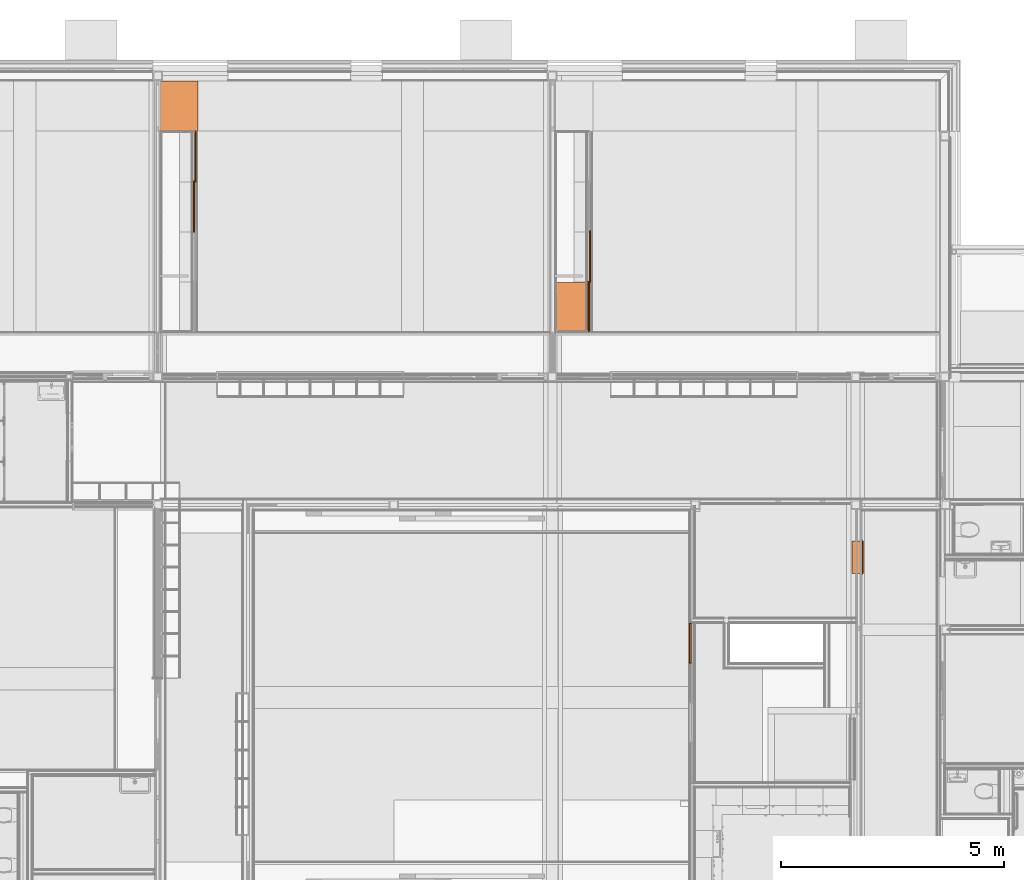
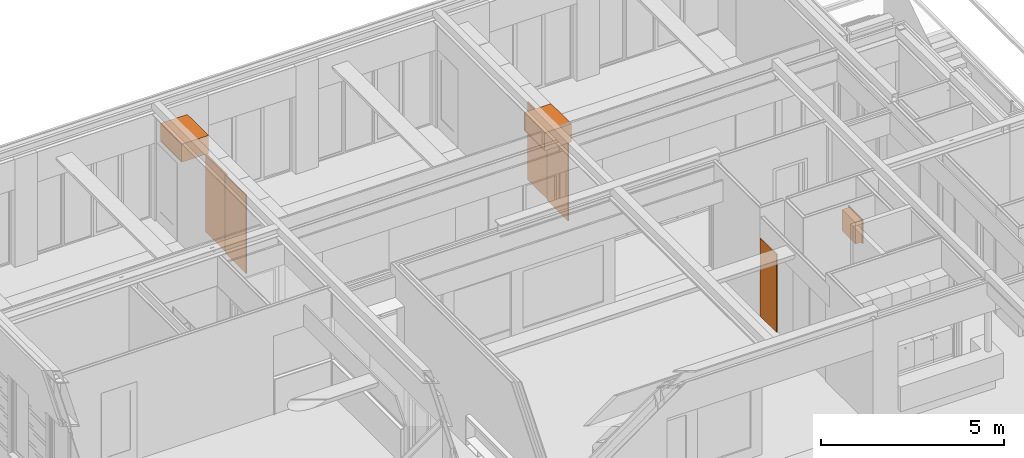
# One storey, part 136 of 165: 8 proxies.
"""IFC2X3 building model written with IfcOpenShell, lengths in millimetres."""

from ifc_helpers import new_model, entity, si_unit, converted_unit, derived_unit, money_unit, direction, frame, origin_with_axes, place, context, subcontext, project, spatial, faceted_brep, source, transform, mapped, type_object, type_shapes, element, save


model = new_model("IFC2X3")

# Units and contexts
model_context = context("Model", 3, precision=0.01, world=origin_with_axes(), true_north=direction((0.0, 1.0)))
body_context = subcontext(model_context, "Body", "Model", "MODEL_VIEW")
ifc_project = project(units=[si_unit("LENGTHUNIT", "METRE", prefix="MILLI"), si_unit("AREAUNIT", "SQUARE_METRE"), si_unit("VOLUMEUNIT", "CUBIC_METRE"), converted_unit("PLANEANGLEUNIT", "DEGREE", entity("IfcPlaneAngleMeasure", 0.0174532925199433), si_unit("PLANEANGLEUNIT", "RADIAN"), dimensions=[0, 0, 0, 0, 0, 0, 0]), money_unit("EUR"), converted_unit("TIMEUNIT", "Year", entity("IfcTimeMeasure", 31556926.0), si_unit("TIMEUNIT", "SECOND"), dimensions=[0, 0, 1, 0, 0, 0, 0]), si_unit("MASSUNIT", "GRAM", prefix="KILO"), si_unit("THERMODYNAMICTEMPERATUREUNIT", "DEGREE_CELSIUS"), si_unit("LUMINOUSINTENSITYUNIT", "LUMEN"), si_unit("ENERGYUNIT", "JOULE", prefix="MEGA"), derived_unit("THERMALCONDUCTANCEUNIT", [(si_unit("POWERUNIT", "WATT"), 1), (si_unit("LENGTHUNIT", "METRE"), -1), (si_unit("THERMODYNAMICTEMPERATUREUNIT", "KELVIN"), -1)]), derived_unit("SPECIFICHEATCAPACITYUNIT", [(si_unit("ENERGYUNIT", "JOULE"), 1), (si_unit("MASSUNIT", "GRAM", prefix="KILO"), -1), (si_unit("THERMODYNAMICTEMPERATUREUNIT", "KELVIN"), -1)]), derived_unit("MASSDENSITYUNIT", [(si_unit("MASSUNIT", "GRAM", prefix="KILO"), 1), (si_unit("VOLUMEUNIT", "CUBIC_METRE"), -1)])], contexts=[model_context])

# Site, building, storey
site_placement = place(None, origin_with_axes())
site = spatial("IfcSite", under=ifc_project, at=site_placement, Name="Site", CompositionType="ELEMENT")
building_placement = place(site_placement, origin_with_axes())
building = spatial("IfcBuilding", under=site, at=building_placement, Name="Naam gebouw", CompositionType="ELEMENT")
storey_placement = place(building_placement, origin_with_axes())
storey = spatial("IfcBuildingStorey", under=building, at=storey_placement, Name="Begane grond", CompositionType="ELEMENT", Elevation=0.0)

# Proxies
building_element_proxy_type_1 = type_object("IfcBuildingElementProxyType", Name="gevelbekleding", PredefinedType="NOTDEFINED")
shared_shape_1 = source(origin_with_axes(), body_context, "Body", "Brep", [
    faceted_brep([(-445.0, 0.0, 0.0), (-440.0, 0.0, 0.0), (-440.0, -35.0, 0.0), (-445.0, -35.0, 0.0), (-445.0, 0.0, 2600.0), (-440.0, 0.0, 2600.0), (-440.0, -35.0, 2600.0), (-445.0, -35.0, 2600.0)], [[[0, 1, 2, 3]], [[0, 4, 5, 1]], [[1, 5, 6, 2]], [[3, 2, 6, 7]], [[4, 0, 3, 7]], [[5, 4, 7, 6]]]),
    faceted_brep([(445.0, 0.0, 0.0), (445.0, 0.0, 2600.0), (445.0, -35.0, 2600.0), (445.0, -35.0, 0.0), (440.0, 0.0, 0.0), (440.0, 0.0, 2600.0), (440.0, -35.0, 2600.0), (440.0, -35.0, 0.0)], [[[0, 1, 2, 3]], [[0, 4, 5, 1]], [[1, 5, 6, 2]], [[3, 2, 6, 7]], [[4, 0, 3, 7]], [[5, 4, 7, 6]]]),
    faceted_brep([(-445.0, 0.0, 0.0), (445.0, 0.0, 0.0), (445.0, -35.0, 0.0), (-445.0, -35.0, 0.0), (-445.0, 0.0, 2600.0), (445.0, 0.0, 2600.0), (445.0, -35.0, 2600.0), (-445.0, -35.0, 2600.0)], [[[0, 1, 2, 3]], [[0, 4, 5, 1]], [[1, 5, 6, 2]], [[3, 2, 6, 7]], [[4, 0, 3, 7]], [[5, 4, 7, 6]]]),
])
proxy_1_placement = place(storey_placement, frame((20774.99906281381, 15899.99824205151, 0.0), z_axis=(0.0, 0.0, 1.0), x_axis=(0.0, 1.0, 0.0)))
element("IfcBuildingElementProxy", 1, at=proxy_1_placement, inside=storey, type_object=building_element_proxy_type_1, Name="_-", context=body_context, shape_type="MappedRepresentation", body=[
    mapped(shared_shape_1, transform((445.0000000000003, 0.0, 0.0))),
])
building_element_proxy_type_2 = type_object("IfcBuildingElementProxyType", Name="Onderkast recht 26", PredefinedType="NOTDEFINED")
shared_shape_2 = source(origin_with_axes(), body_context, "Body", "Brep", [
    faceted_brep([(-1.0, -826.9999999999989, 1.0), (-1.0, -844.9999999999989, 1.000000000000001), (-1152.000152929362, -844.9999999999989, 1.000000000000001), (-1152.000152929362, -826.9999999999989, 1.0), (-1.0, -826.9999999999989, 599.0), (-1.0, -844.9999999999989, 599.0), (-1152.000152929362, -844.9999999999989, 599.0), (-1152.000152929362, -826.9999999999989, 599.0)], [[[0, 1, 2, 3]], [[4, 5, 1, 0]], [[1, 5, 6, 2]], [[3, 2, 6, 7]], [[0, 3, 7, 4]], [[7, 6, 5, 4]]]),
    faceted_brep([(-18.0, -826.9999999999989, 0.0), (-18.0, -826.9999999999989, 18.0), (-1135.000152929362, -826.9999999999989, 18.0), (-1135.000152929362, -826.9999999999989, 0.0), (-18.0, 0.0, 0.0), (-18.0, 0.0, 18.0), (-1135.000152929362, 0.0, 18.0), (-1135.000152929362, 0.0, 0.0)], [[[0, 1, 2, 3]], [[4, 5, 1, 0]], [[1, 5, 6, 2]], [[3, 2, 6, 7]], [[0, 3, 7, 4]], [[7, 6, 5, 4]]]),
    faceted_brep([(-18.0, -826.9999999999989, 582.0), (-18.0, -826.9999999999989, 600.0), (-1135.000152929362, -826.9999999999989, 600.0), (-1135.000152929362, -826.9999999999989, 582.0), (-18.0, 0.0, 582.0), (-18.0, 0.0, 600.0), (-1135.000152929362, 0.0, 600.0), (-1135.000152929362, 0.0, 582.0)], [[[0, 1, 2, 3]], [[4, 5, 1, 0]], [[1, 5, 6, 2]], [[3, 2, 6, 7]], [[0, 3, 7, 4]], [[7, 6, 5, 4]]]),
    faceted_brep([(0.0, 0.0, 0.0), (0.0, 0.0, 600.0), (0.0, -826.9999999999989, 600.0), (0.0, -826.9999999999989, 0.0), (-18.0, 0.0, 0.0), (-18.0, 0.0, 600.0), (-18.0, -826.9999999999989, 600.0), (-18.0, -826.9999999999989, 0.0)], [[[0, 1, 2, 3]], [[4, 5, 1, 0]], [[1, 5, 6, 2]], [[3, 2, 6, 7]], [[0, 3, 7, 4]], [[7, 6, 5, 4]]]),
    faceted_brep([(-1153.000152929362, -826.9999999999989, 0.0), (-1153.000152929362, -826.9999999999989, 600.0), (-1153.000152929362, 0.0, 600.0), (-1153.000152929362, 0.0, 0.0), (-1135.000152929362, -826.9999999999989, 0.0), (-1135.000152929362, -826.9999999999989, 600.0), (-1135.000152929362, 0.0, 600.0), (-1135.000152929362, 0.0, 0.0)], [[[0, 1, 2, 3]], [[4, 5, 1, 0]], [[1, 5, 6, 2]], [[3, 2, 6, 7]], [[0, 3, 7, 4]], [[7, 6, 5, 4]]]),
    faceted_brep([(-1135.000152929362, -9.0, 18.0), (-1135.000152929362, -9.0, 582.0), (-18.00000000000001, -9.0, 582.0), (-18.00000000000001, -9.0, 18.0), (-1135.000152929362, -18.0, 18.0), (-1135.000152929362, -18.0, 582.0), (-18.00000000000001, -18.0, 582.0), (-18.00000000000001, -18.0, 18.0)], [[[0, 1, 2, 3]], [[4, 5, 1, 0]], [[1, 5, 6, 2]], [[3, 2, 6, 7]], [[0, 3, 7, 4]], [[7, 6, 5, 4]]]),
])
proxy_2_placement = place(storey_placement, frame((8912.500000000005, 28961.0, 2600.0), z_axis=(0.0, 0.0, 1.0), x_axis=(0.0, 1.0, 0.0)))
element("IfcBuildingElementProxy", 2, at=proxy_2_placement, inside=storey, type_object=building_element_proxy_type_2, Name="_Leeg", context=body_context, shape_type="MappedRepresentation", body=[
    mapped(shared_shape_2, transform((0.0, 0.0, 0.0))),
])
building_element_proxy_type_3 = type_object("IfcBuildingElementProxyType", Name="Brandslang haspelkast 26", PredefinedType="NOTDEFINED")
shared_shape_3 = source(origin_with_axes(), body_context, "Body", "Brep", [
    faceted_brep([(0.0, 40.00000000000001, 0.0), (0.0, 20.00000000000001, 0.0), (-800.0, 20.00000000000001, 0.0), (-800.0, 40.00000000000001, 0.0), (0.0, 40.00000000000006, 800.0), (0.0, 20.00000000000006, 800.0), (-800.0, 20.00000000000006, 800.0), (-60.0, 20.00000000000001, 60.00000000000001), (-740.0, 20.00000000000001, 60.00000000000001), (-740.0, 20.00000000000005, 740.0), (-60.0, 20.00000000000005, 740.0), (-800.0, 40.00000000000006, 800.0), (-60.0, 40.00000000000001, 60.00000000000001), (-60.0, 40.00000000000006, 740.0), (-740.0, 40.00000000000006, 740.0), (-740.0, 40.00000000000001, 60.00000000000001)], [[[0, 1, 2, 3]], [[4, 5, 1, 0]], [[1, 5, 6, 2], [7, 8, 9, 10]], [[3, 2, 6, 11]], [[0, 3, 11, 4], [12, 13, 14, 15]], [[11, 6, 5, 4]], [[15, 8, 7, 12]], [[14, 9, 8, 15]], [[13, 10, 9, 14]], [[12, 7, 10, 13]]]),
    faceted_brep([(-39.99999999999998, 20.00000000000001, 40.00000000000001), (-39.99999999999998, 0.0, 40.00000000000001), (-760.0, 0.0, 40.00000000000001), (-760.0, 20.00000000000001, 40.00000000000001), (-39.99999999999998, 20.00000000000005, 760.0), (-39.99999999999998, 0.0, 760.0), (-760.0, 0.0, 760.0), (-80.00000000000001, 0.0, 80.0), (-720.0, 0.0, 80.0), (-720.0, 0.0, 720.0000000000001), (-80.00000000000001, 0.0, 720.0000000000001), (-760.0, 20.00000000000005, 760.0), (-80.00000000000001, 20.00000000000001, 80.0), (-80.00000000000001, 20.00000000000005, 720.0000000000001), (-720.0, 20.00000000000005, 720.0000000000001), (-720.0, 20.00000000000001, 80.0)], [[[0, 1, 2, 3]], [[4, 5, 1, 0]], [[1, 5, 6, 2], [7, 8, 9, 10]], [[3, 2, 6, 11]], [[0, 3, 11, 4], [12, 13, 14, 15]], [[11, 6, 5, 4]], [[15, 8, 7, 12]], [[14, 9, 8, 15]], [[13, 10, 9, 14]], [[12, 7, 10, 13]]]),
    faceted_brep([(-39.99999999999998, 230.0, 39.99999999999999), (-39.99999999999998, 39.99999999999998, 40.00000000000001), (-760.0, 39.99999999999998, 40.00000000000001), (-760.0, 230.0, 39.99999999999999), (-39.99999999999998, 230.0, 760.0), (-39.99999999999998, 40.00000000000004, 760.0), (-760.0, 40.00000000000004, 760.0), (-60.0, 39.99999999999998, 60.00000000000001), (-740.0, 39.99999999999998, 60.00000000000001), (-740.0, 40.00000000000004, 740.0), (-60.0, 40.00000000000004, 740.0), (-760.0, 230.0, 760.0), (-60.0, 230.0, 59.99999999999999), (-60.0, 230.0, 740.0), (-740.0, 230.0, 740.0), (-740.0, 230.0, 59.99999999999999)], [[[0, 1, 2, 3]], [[4, 5, 1, 0]], [[1, 5, 6, 2], [7, 8, 9, 10]], [[3, 2, 6, 11]], [[0, 3, 11, 4], [12, 13, 14, 15]], [[11, 6, 5, 4]], [[15, 8, 7, 12]], [[14, 9, 8, 15]], [[13, 10, 9, 14]], [[12, 7, 10, 13]]]),
    faceted_brep([(-39.99999999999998, 250.0, 39.99999999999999), (-39.99999999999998, 230.0, 39.99999999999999), (-760.0, 230.0, 39.99999999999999), (-760.0, 250.0, 39.99999999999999), (-39.99999999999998, 250.0000000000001, 760.0), (-39.99999999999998, 230.0, 760.0), (-760.0, 230.0, 760.0), (-760.0, 250.0000000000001, 760.0)], [[[0, 1, 2, 3]], [[4, 5, 1, 0]], [[1, 5, 6, 2]], [[3, 2, 6, 7]], [[0, 3, 7, 4]], [[7, 6, 5, 4]]]),
    faceted_brep([(-80.00000000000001, 15.00000000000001, 80.0), (-80.00000000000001, 5.000000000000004, 80.0), (-720.0, 5.000000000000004, 80.0), (-720.0, 15.00000000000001, 80.0), (-80.00000000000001, 15.00000000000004, 720.0000000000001), (-80.00000000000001, 5.000000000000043, 720.0000000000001), (-720.0, 5.000000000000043, 720.0000000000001), (-720.0, 15.00000000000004, 720.0000000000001)], [[[0, 1, 2, 3]], [[4, 5, 1, 0]], [[1, 5, 6, 2]], [[3, 2, 6, 7]], [[0, 3, 7, 4]], [[7, 6, 5, 4]]]),
    faceted_brep([(-749.6592582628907, 0.0, 397.4118095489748), (-750.0, 0.0, 400.0), (-749.6592582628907, 0.0, 402.5881904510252), (-748.6602540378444, 0.0, 405.0), (-747.0710678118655, 0.0, 407.0710678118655), (-745.0, 0.0, 408.6602540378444), (-742.5881904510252, 0.0, 409.6592582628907), (-740.0, 0.0, 410.0000000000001), (-737.4118095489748, 0.0, 409.6592582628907), (-735.0, 0.0, 408.6602540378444), (-732.9289321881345, 0.0, 407.0710678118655), (-731.3397459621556, 0.0, 405.0), (-730.3407417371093, 0.0, 402.5881904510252), (-730.0, 0.0, 400.0), (-730.3407417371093, 0.0, 397.4118095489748), (-731.3397459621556, 0.0, 395.0), (-732.9289321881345, 0.0, 392.9289321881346), (-735.0, 0.0, 391.3397459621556), (-737.4118095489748, 0.0, 390.3407417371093), (-740.0, 0.0, 390.0), (-742.5881904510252, 0.0, 390.3407417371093), (-745.0, 0.0, 391.3397459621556), (-747.0710678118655, 0.0, 392.9289321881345), (-748.6602540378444, 0.0, 395.0), (-749.6592582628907, -1.999999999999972, 397.4118095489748), (-750.0, -1.999999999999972, 400.0), (-749.6592582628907, -1.999999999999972, 402.5881904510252), (-748.6602540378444, -1.999999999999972, 405.0), (-747.0710678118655, -1.999999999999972, 407.0710678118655), (-745.0, -1.999999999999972, 408.6602540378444), (-742.5881904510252, -1.999999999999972, 409.6592582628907), (-740.0, -1.999999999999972, 410.0000000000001), (-737.4118095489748, -1.999999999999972, 409.6592582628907), (-735.0, -1.999999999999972, 408.6602540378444), (-732.9289321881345, -1.999999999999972, 407.0710678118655), (-731.3397459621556, -1.999999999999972, 405.0), (-730.3407417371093, -1.999999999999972, 402.5881904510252), (-730.0, -1.999999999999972, 400.0), (-730.3407417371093, -1.999999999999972, 397.4118095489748), (-731.3397459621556, -1.999999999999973, 395.0), (-732.9289321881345, -1.999999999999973, 392.9289321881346), (-735.0, -1.999999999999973, 391.3397459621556), (-737.4118095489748, -1.999999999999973, 390.3407417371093), (-740.0, -1.999999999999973, 390.0), (-742.5881904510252, -1.999999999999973, 390.3407417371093), (-745.0, -1.999999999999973, 391.3397459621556), (-747.0710678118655, -1.999999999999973, 392.9289321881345), (-748.6602540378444, -1.999999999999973, 395.0)], [[[0, 1, 2, 3, 4, 5, 6, 7, 8, 9, 10, 11, 12, 13, 14, 15, 16, 17, 18, 19, 20, 21, 22, 23]], [[0, 24, 25, 1]], [[1, 25, 26, 2]], [[2, 26, 27, 3]], [[3, 27, 28, 4]], [[4, 28, 29, 5]], [[5, 29, 30, 6]], [[6, 30, 31, 7]], [[7, 31, 32, 8]], [[8, 32, 33, 9]], [[9, 33, 34, 10]], [[10, 34, 35, 11]], [[11, 35, 36, 12]], [[12, 36, 37, 13]], [[13, 37, 38, 14]], [[14, 38, 39, 15]], [[15, 39, 40, 16]], [[16, 40, 41, 17]], [[17, 41, 42, 18]], [[18, 42, 43, 19]], [[19, 43, 44, 20]], [[20, 44, 45, 21]], [[21, 45, 46, 22]], [[22, 46, 47, 23]], [[23, 47, 24, 0]], [[24, 47, 46, 45, 44, 43, 42, 41, 40, 39, 38, 37, 36, 35, 34, 33, 32, 31, 30, 29, 28, 27, 26, 25]]]),
    faceted_brep([(-39.89777747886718, 16.22354286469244, 80.0), (-39.99999999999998, 17.0, 80.0), (-39.89777747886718, 17.77645713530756, 80.0), (-39.59807621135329, 18.5, 80.0), (-39.12132034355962, 19.12132034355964, 80.0), (-38.49999999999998, 19.59807621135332, 80.0), (-37.77645713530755, 19.89777747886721, 80.0), (-36.99999999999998, 20.0, 80.0), (-36.22354286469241, 19.89777747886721, 80.0), (-35.49999999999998, 19.59807621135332, 80.0), (-34.87867965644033, 19.12132034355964, 80.0), (-34.40192378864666, 18.5, 80.0), (-34.10222252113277, 17.77645713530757, 80.0), (-33.99999999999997, 17.0, 80.0), (-34.10222252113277, 16.22354286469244, 80.0), (-34.40192378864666, 15.5, 80.0), (-34.87867965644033, 14.87867965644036, 80.0), (-35.49999999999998, 14.40192378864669, 80.0), (-36.22354286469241, 14.1022225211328, 80.0), (-36.99999999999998, 14.0, 80.0), (-37.77645713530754, 14.10222252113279, 80.0), (-38.49999999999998, 14.40192378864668, 80.0), (-39.12132034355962, 14.87867965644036, 80.0), (-39.59807621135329, 15.5, 80.0), (-39.89777747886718, 16.22354286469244, 120.0), (-39.99999999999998, 17.0, 120.0), (-39.89777747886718, 17.77645713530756, 120.0), (-39.59807621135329, 18.5, 120.0), (-39.12132034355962, 19.12132034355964, 120.0), (-38.49999999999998, 19.59807621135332, 120.0), (-37.77645713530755, 19.89777747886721, 120.0), (-36.99999999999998, 20.0, 120.0), (-36.22354286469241, 19.89777747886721, 120.0), (-35.49999999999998, 19.59807621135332, 120.0), (-34.87867965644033, 19.12132034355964, 120.0), (-34.40192378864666, 18.5, 120.0), (-34.10222252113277, 17.77645713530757, 120.0), (-33.99999999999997, 17.0, 120.0), (-34.10222252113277, 16.22354286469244, 120.0), (-34.40192378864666, 15.5, 120.0), (-34.87867965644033, 14.87867965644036, 120.0), (-35.49999999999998, 14.40192378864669, 120.0), (-36.22354286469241, 14.1022225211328, 120.0), (-36.99999999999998, 14.0, 120.0), (-37.77645713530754, 14.10222252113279, 120.0), (-38.49999999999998, 14.40192378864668, 120.0), (-39.12132034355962, 14.87867965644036, 120.0), (-39.59807621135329, 15.5, 120.0)], [[[0, 1, 2, 3, 4, 5, 6, 7, 8, 9, 10, 11, 12, 13, 14, 15, 16, 17, 18, 19, 20, 21, 22, 23]], [[0, 24, 25, 1]], [[1, 25, 26, 2]], [[2, 26, 27, 3]], [[3, 27, 28, 4]], [[4, 28, 29, 5]], [[5, 29, 30, 6]], [[6, 30, 31, 7]], [[7, 31, 32, 8]], [[8, 32, 33, 9]], [[9, 33, 34, 10]], [[10, 34, 35, 11]], [[11, 35, 36, 12]], [[12, 36, 37, 13]], [[13, 37, 38, 14]], [[14, 38, 39, 15]], [[15, 39, 40, 16]], [[16, 40, 41, 17]], [[17, 41, 42, 18]], [[18, 42, 43, 19]], [[19, 43, 44, 20]], [[20, 44, 45, 21]], [[21, 45, 46, 22]], [[22, 46, 47, 23]], [[23, 47, 24, 0]], [[24, 47, 46, 45, 44, 43, 42, 41, 40, 39, 38, 37, 36, 35, 34, 33, 32, 31, 30, 29, 28, 27, 26, 25]]]),
    faceted_brep([(-39.89777747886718, 16.22354286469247, 680.0), (-39.99999999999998, 17.00000000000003, 680.0), (-39.89777747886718, 17.77645713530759, 680.0), (-39.59807621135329, 18.50000000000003, 680.0), (-39.12132034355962, 19.12132034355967, 680.0), (-38.49999999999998, 19.59807621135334, 680.0), (-37.77645713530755, 19.89777747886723, 680.0), (-36.99999999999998, 20.00000000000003, 680.0), (-36.22354286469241, 19.89777747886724, 680.0), (-35.49999999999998, 19.59807621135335, 680.0), (-34.87867965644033, 19.12132034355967, 680.0), (-34.40192378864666, 18.50000000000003, 680.0), (-34.10222252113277, 17.7764571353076, 680.0), (-33.99999999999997, 17.00000000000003, 680.0), (-34.10222252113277, 16.22354286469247, 680.0), (-34.40192378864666, 15.50000000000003, 680.0), (-34.87867965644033, 14.87867965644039, 680.0), (-35.49999999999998, 14.40192378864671, 680.0), (-36.22354286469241, 14.10222252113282, 680.0), (-36.99999999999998, 14.00000000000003, 680.0), (-37.77645713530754, 14.10222252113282, 680.0), (-38.49999999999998, 14.40192378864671, 680.0), (-39.12132034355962, 14.87867965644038, 680.0), (-39.59807621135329, 15.50000000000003, 680.0), (-39.89777747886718, 16.22354286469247, 720.0000000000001), (-39.99999999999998, 17.00000000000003, 720.0000000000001), (-39.89777747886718, 17.77645713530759, 720.0000000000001), (-39.59807621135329, 18.50000000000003, 720.0000000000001), (-39.12132034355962, 19.12132034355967, 720.0000000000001), (-38.49999999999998, 19.59807621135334, 720.0000000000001), (-37.77645713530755, 19.89777747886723, 720.0000000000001), (-36.99999999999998, 20.00000000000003, 720.0000000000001), (-36.22354286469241, 19.89777747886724, 720.0000000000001), (-35.49999999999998, 19.59807621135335, 720.0000000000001), (-34.87867965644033, 19.12132034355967, 720.0000000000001), (-34.40192378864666, 18.50000000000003, 720.0000000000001), (-34.10222252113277, 17.7764571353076, 720.0000000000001), (-33.99999999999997, 17.00000000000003, 720.0000000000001), (-34.10222252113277, 16.22354286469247, 720.0000000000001), (-34.40192378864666, 15.50000000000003, 720.0000000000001), (-34.87867965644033, 14.87867965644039, 720.0000000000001), (-35.49999999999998, 14.40192378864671, 720.0000000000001), (-36.22354286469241, 14.10222252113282, 720.0000000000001), (-36.99999999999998, 14.00000000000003, 720.0000000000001), (-37.77645713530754, 14.10222252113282, 720.0000000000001), (-38.49999999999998, 14.40192378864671, 720.0000000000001), (-39.12132034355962, 14.87867965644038, 720.0000000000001), (-39.59807621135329, 15.50000000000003, 720.0000000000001)], [[[0, 1, 2, 3, 4, 5, 6, 7, 8, 9, 10, 11, 12, 13, 14, 15, 16, 17, 18, 19, 20, 21, 22, 23]], [[0, 24, 25, 1]], [[1, 25, 26, 2]], [[2, 26, 27, 3]], [[3, 27, 28, 4]], [[4, 28, 29, 5]], [[5, 29, 30, 6]], [[6, 30, 31, 7]], [[7, 31, 32, 8]], [[8, 32, 33, 9]], [[9, 33, 34, 10]], [[10, 34, 35, 11]], [[11, 35, 36, 12]], [[12, 36, 37, 13]], [[13, 37, 38, 14]], [[14, 38, 39, 15]], [[15, 39, 40, 16]], [[16, 40, 41, 17]], [[17, 41, 42, 18]], [[18, 42, 43, 19]], [[19, 43, 44, 20]], [[20, 44, 45, 21]], [[21, 45, 46, 22]], [[22, 46, 47, 23]], [[23, 47, 24, 0]], [[24, 47, 46, 45, 44, 43, 42, 41, 40, 39, 38, 37, 36, 35, 34, 33, 32, 31, 30, 29, 28, 27, 26, 25]]]),
])
type_shapes(building_element_proxy_type_3, [shared_shape_3])
proxy_3_placement = place(storey_placement, frame((24674.99903999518, 18675.00039292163, 400.0000000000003), z_axis=(0.0, 0.0, 1.0), x_axis=(0.0, 1.0, 0.0)))
element("IfcBuildingElementProxy", 3, at=proxy_3_placement, inside=storey, type_object=building_element_proxy_type_3, Name="_object-x", context=body_context, shape_type="MappedRepresentation", body=[
    mapped(shared_shape_3, transform((0.0, 0.0, 0.0))),
])
shared_shape_4 = source(origin_with_axes(), body_context, "Body", "Brep", [
    faceted_brep([(577.5, 0.0, 0.0), (577.5, -35.0, 0.0), (572.5, -35.0, 0.0), (572.5, 0.0, 0.0), (577.5, 0.0, 2600.0), (577.5, -35.0, 2600.0), (572.5, -35.0, 2600.0), (572.5, 0.0, 2600.0)], [[[0, 1, 2, 3]], [[4, 5, 1, 0]], [[1, 5, 6, 2]], [[3, 2, 6, 7]], [[0, 3, 7, 4]], [[7, 6, 5, 4]]]),
    faceted_brep([(-577.5, 0.0, 0.0), (-577.5, -35.0, 0.0), (-577.5, -35.0, 2600.0), (-577.5, 0.0, 2600.0), (-572.5000000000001, 0.0, 0.0), (-572.5000000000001, -35.0, 0.0), (-572.5000000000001, -35.0, 2600.0), (-572.5000000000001, 0.0, 2600.0)], [[[0, 1, 2, 3]], [[4, 5, 1, 0]], [[1, 5, 6, 2]], [[3, 2, 6, 7]], [[0, 3, 7, 4]], [[7, 6, 5, 4]]]),
    faceted_brep([(577.5, 0.0, 0.0), (577.5, -35.0, 0.0), (-577.5, -35.0, 0.0), (-577.5, 0.0, 0.0), (577.5, 0.0, 2600.0), (577.5, -35.0, 2600.0), (-577.5, -35.0, 2600.0), (-577.5, 0.0, 2600.0)], [[[0, 1, 2, 3]], [[4, 5, 1, 0]], [[1, 5, 6, 2]], [[3, 2, 6, 7]], [[0, 3, 7, 4]], [[7, 6, 5, 4]]]),
])
proxy_4_placement = place(storey_placement, frame((18562.49942456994, 25592.99991880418, 0.0), z_axis=(0.0, 0.0, 1.0), x_axis=(0.0, -1.0, 0.0)))
element("IfcBuildingElementProxy", 4, at=proxy_4_placement, inside=storey, type_object=building_element_proxy_type_1, Name="_-", context=body_context, shape_type="MappedRepresentation", body=[
    mapped(shared_shape_4, transform((577.5000000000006, 0.0, 0.0))),
])
shared_shape_5 = source(origin_with_axes(), body_context, "Body", "Brep", [
    faceted_brep([(-570.0, 0.0, 0.0), (-565.0, 0.0, 0.0), (-565.0, -35.0, 0.0), (-570.0, -35.0, 0.0), (-570.0, 0.0, 2600.0), (-565.0, 0.0, 2600.0), (-565.0, -35.0, 2600.0), (-570.0, -35.0, 2600.0)], [[[0, 1, 2, 3]], [[0, 4, 5, 1]], [[1, 5, 6, 2]], [[3, 2, 6, 7]], [[4, 0, 3, 7]], [[5, 4, 7, 6]]]),
    faceted_brep([(570.0, 0.0, 0.0), (570.0, 0.0, 2600.0), (570.0, -35.0, 2600.0), (570.0, -35.0, 0.0), (565.0000000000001, 0.0, 0.0), (565.0000000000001, 0.0, 2600.0), (565.0000000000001, -35.0, 2600.0), (565.0000000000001, -35.0, 0.0)], [[[0, 1, 2, 3]], [[0, 4, 5, 1]], [[1, 5, 6, 2]], [[3, 2, 6, 7]], [[4, 0, 3, 7]], [[5, 4, 7, 6]]]),
    faceted_brep([(-570.0, 0.0, 0.0), (570.0, 0.0, 0.0), (570.0, -35.0, 0.0), (-570.0, -35.0, 0.0), (-570.0, 0.0, 2600.0), (570.0, 0.0, 2600.0), (570.0, -35.0, 2600.0), (-570.0, -35.0, 2600.0)], [[[0, 1, 2, 3]], [[0, 4, 5, 1]], [[1, 5, 6, 2]], [[3, 2, 6, 7]], [[4, 0, 3, 7]], [[5, 4, 7, 6]]]),
])
proxy_5_placement = place(storey_placement, frame((18562.49942456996, 24467.99984810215, 0.0), z_axis=(0.0, 0.0, 1.0), x_axis=(0.0, -1.0, 0.0)))
element("IfcBuildingElementProxy", 5, at=proxy_5_placement, inside=storey, type_object=building_element_proxy_type_1, Name="_-", context=body_context, shape_type="MappedRepresentation", body=[
    mapped(shared_shape_5, transform((570.0000000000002, -34.99999999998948, 0.0))),
])
shared_shape_6 = source(origin_with_axes(), body_context, "Body", "Brep", [
    faceted_brep([(570.0000707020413, 0.0, 0.0), (570.0000707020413, -35.0, 0.0), (565.0000707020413, -35.0, 0.0), (565.0000707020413, 0.0, 0.0), (570.0000707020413, 0.0, 2600.0), (570.0000707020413, -35.0, 2600.0), (565.0000707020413, -35.0, 2600.0), (565.0000707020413, 0.0, 2600.0)], [[[0, 1, 2, 3]], [[4, 5, 1, 0]], [[1, 5, 6, 2]], [[3, 2, 6, 7]], [[0, 3, 7, 4]], [[7, 6, 5, 4]]]),
    faceted_brep([(-570.0000707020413, 0.0, 0.0), (-570.0000707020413, -35.0, 0.0), (-570.0000707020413, -35.0, 2600.0), (-570.0000707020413, 0.0, 2600.0), (-565.0000707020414, 0.0, 0.0), (-565.0000707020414, -35.0, 0.0), (-565.0000707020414, -35.0, 2600.0), (-565.0000707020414, 0.0, 2600.0)], [[[0, 1, 2, 3]], [[4, 5, 1, 0]], [[1, 5, 6, 2]], [[3, 2, 6, 7]], [[0, 3, 7, 4]], [[7, 6, 5, 4]]]),
    faceted_brep([(570.0000707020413, 0.0, 0.0), (570.0000707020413, -35.0, 0.0), (-570.0000707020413, -35.0, 0.0), (-570.0000707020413, 0.0, 0.0), (570.0000707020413, 0.0, 2600.0), (570.0000707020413, -35.0, 2600.0), (-570.0000707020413, -35.0, 2600.0), (-570.0000707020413, 0.0, 2600.0)], [[[0, 1, 2, 3]], [[4, 5, 1, 0]], [[1, 5, 6, 2]], [[3, 2, 6, 7]], [[0, 3, 7, 4]], [[7, 6, 5, 4]]]),
])
proxy_6_placement = place(storey_placement, frame((9712.500000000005, 27827.99984229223, 0.0), z_axis=(0.0, 0.0, 1.0), x_axis=(0.0, -1.0, 0.0)))
element("IfcBuildingElementProxy", 6, at=proxy_6_placement, inside=storey, type_object=building_element_proxy_type_1, Name="_-", context=body_context, shape_type="MappedRepresentation", body=[
    mapped(shared_shape_6, transform((570.00007070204, 0.0, 0.0))),
])
shared_shape_7 = source(origin_with_axes(), body_context, "Body", "Brep", [
    faceted_brep([(-577.5, 0.0, 0.0), (-572.5, 0.0, 0.0), (-572.5, -35.0, 0.0), (-577.5, -35.0, 0.0), (-577.5, 0.0, 2600.0), (-572.5, 0.0, 2600.0), (-572.5, -35.0, 2600.0), (-577.5, -35.0, 2600.0)], [[[0, 1, 2, 3]], [[0, 4, 5, 1]], [[1, 5, 6, 2]], [[3, 2, 6, 7]], [[4, 0, 3, 7]], [[5, 4, 7, 6]]]),
    faceted_brep([(577.5, 0.0, 0.0), (577.5, 0.0, 2600.0), (577.5, -35.0, 2600.0), (577.5, -35.0, 0.0), (572.5000000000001, 0.0, 0.0), (572.5000000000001, 0.0, 2600.0), (572.5000000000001, -35.0, 2600.0), (572.5000000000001, -35.0, 0.0)], [[[0, 1, 2, 3]], [[0, 4, 5, 1]], [[1, 5, 6, 2]], [[3, 2, 6, 7]], [[4, 0, 3, 7]], [[5, 4, 7, 6]]]),
    faceted_brep([(-577.5, 0.0, 0.0), (577.5, 0.0, 0.0), (577.5, -35.0, 0.0), (-577.5, -35.0, 0.0), (-577.5, 0.0, 2600.0), (577.5, 0.0, 2600.0), (577.5, -35.0, 2600.0), (-577.5, -35.0, 2600.0)], [[[0, 1, 2, 3]], [[0, 4, 5, 1]], [[1, 5, 6, 2]], [[3, 2, 6, 7]], [[4, 0, 3, 7]], [[5, 4, 7, 6]]]),
])
type_shapes(building_element_proxy_type_1, [shared_shape_1, shared_shape_4, shared_shape_5, shared_shape_6, shared_shape_7])
proxy_7_placement = place(storey_placement, frame((9712.500000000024, 26717.99977159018, 0.0), z_axis=(0.0, 0.0, 1.0), x_axis=(0.0, -1.0, 0.0)))
element("IfcBuildingElementProxy", 7, at=proxy_7_placement, inside=storey, type_object=building_element_proxy_type_1, Name="_-", context=body_context, shape_type="MappedRepresentation", body=[
    mapped(shared_shape_7, transform((577.5000000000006, -34.99999999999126, 0.0))),
])
shared_shape_8 = source(origin_with_axes(), body_context, "Body", "Brep", [
    faceted_brep([(-1.0, -827.0, 1.0), (-1.0, -845.0, 1.000000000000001), (-1119.000141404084, -845.0, 1.000000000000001), (-1119.000141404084, -827.0, 1.0), (-1.0, -827.0, 599.0), (-1.0, -845.0, 599.0), (-1119.000141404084, -845.0, 599.0), (-1119.000141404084, -827.0, 599.0)], [[[0, 1, 2, 3]], [[4, 5, 1, 0]], [[1, 5, 6, 2]], [[3, 2, 6, 7]], [[0, 3, 7, 4]], [[7, 6, 5, 4]]]),
    faceted_brep([(-18.0, -827.0, 0.0), (-18.0, -827.0, 18.0), (-1102.000141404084, -827.0, 18.0), (-1102.000141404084, -827.0, 0.0), (-18.0, 0.0, 0.0), (-18.0, 0.0, 18.0), (-1102.000141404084, 0.0, 18.0), (-1102.000141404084, 0.0, 0.0)], [[[0, 1, 2, 3]], [[4, 5, 1, 0]], [[1, 5, 6, 2]], [[3, 2, 6, 7]], [[0, 3, 7, 4]], [[7, 6, 5, 4]]]),
    faceted_brep([(-18.0, -827.0, 582.0), (-18.0, -827.0, 600.0), (-1102.000141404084, -827.0, 600.0), (-1102.000141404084, -827.0, 582.0), (-18.0, 0.0, 582.0), (-18.0, 0.0, 600.0), (-1102.000141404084, 0.0, 600.0), (-1102.000141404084, 0.0, 582.0)], [[[0, 1, 2, 3]], [[4, 5, 1, 0]], [[1, 5, 6, 2]], [[3, 2, 6, 7]], [[0, 3, 7, 4]], [[7, 6, 5, 4]]]),
    faceted_brep([(0.0, 0.0, 0.0), (0.0, 0.0, 600.0), (0.0, -827.0, 600.0), (0.0, -827.0, 0.0), (-18.0, 0.0, 0.0), (-18.0, 0.0, 600.0), (-18.0, -827.0, 600.0), (-18.0, -827.0, 0.0)], [[[0, 1, 2, 3]], [[4, 5, 1, 0]], [[1, 5, 6, 2]], [[3, 2, 6, 7]], [[0, 3, 7, 4]], [[7, 6, 5, 4]]]),
    faceted_brep([(-1120.000141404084, -827.0, 0.0), (-1120.000141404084, -827.0, 600.0), (-1120.000141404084, 0.0, 600.0), (-1120.000141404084, 0.0, 0.0), (-1102.000141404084, -827.0, 0.0), (-1102.000141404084, -827.0, 600.0), (-1102.000141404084, 0.0, 600.0), (-1102.000141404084, 0.0, 0.0)], [[[0, 1, 2, 3]], [[4, 5, 1, 0]], [[1, 5, 6, 2]], [[3, 2, 6, 7]], [[0, 3, 7, 4]], [[7, 6, 5, 4]]]),
    faceted_brep([(-1102.000141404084, -9.0, 18.0), (-1102.000141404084, -9.0, 582.0), (-18.00000000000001, -9.0, 582.0), (-18.00000000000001, -9.0, 18.0), (-1102.000141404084, -18.0, 18.0), (-1102.000141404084, -18.0, 582.0), (-18.00000000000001, -18.0, 582.0), (-18.00000000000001, -18.0, 18.0)], [[[0, 1, 2, 3]], [[4, 5, 1, 0]], [[1, 5, 6, 2]], [[3, 2, 6, 7]], [[0, 3, 7, 4]], [[7, 6, 5, 4]]]),
])
type_shapes(building_element_proxy_type_2, [shared_shape_2, shared_shape_8])
proxy_8_placement = place(storey_placement, frame((17762.49942456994, 24447.99942285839, 2600.0), z_axis=(0.0, 0.0, 1.0), x_axis=(0.0, 1.0, 0.0)))
element("IfcBuildingElementProxy", 8, at=proxy_8_placement, inside=storey, type_object=building_element_proxy_type_2, Name="_Leeg", context=body_context, shape_type="MappedRepresentation", body=[
    mapped(shared_shape_8, transform((0.0, 0.0, 0.0))),
])

save(model, "model.ifc")
